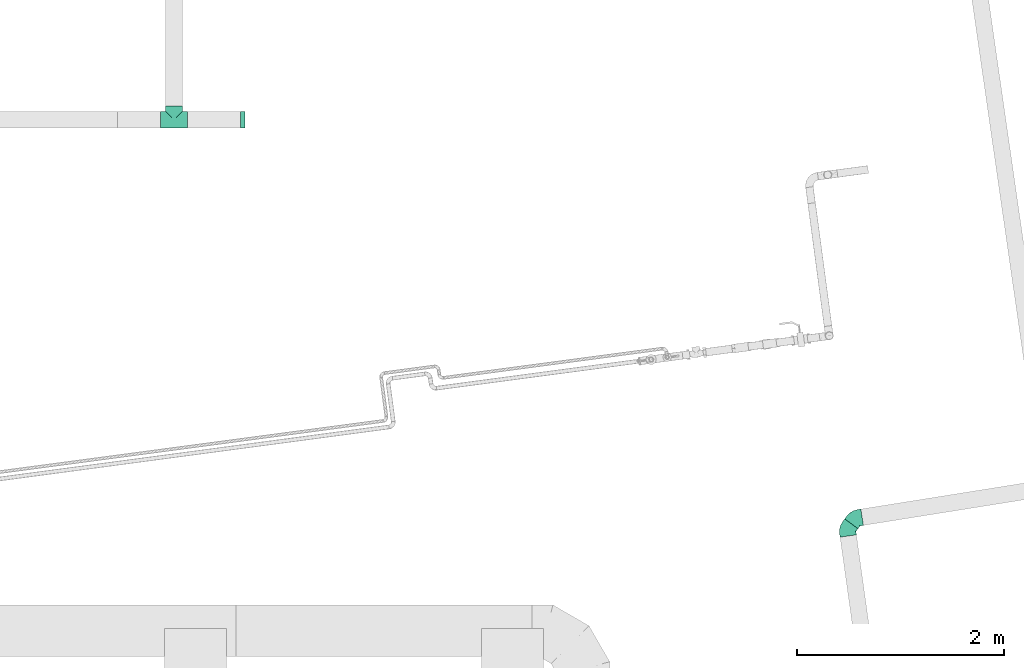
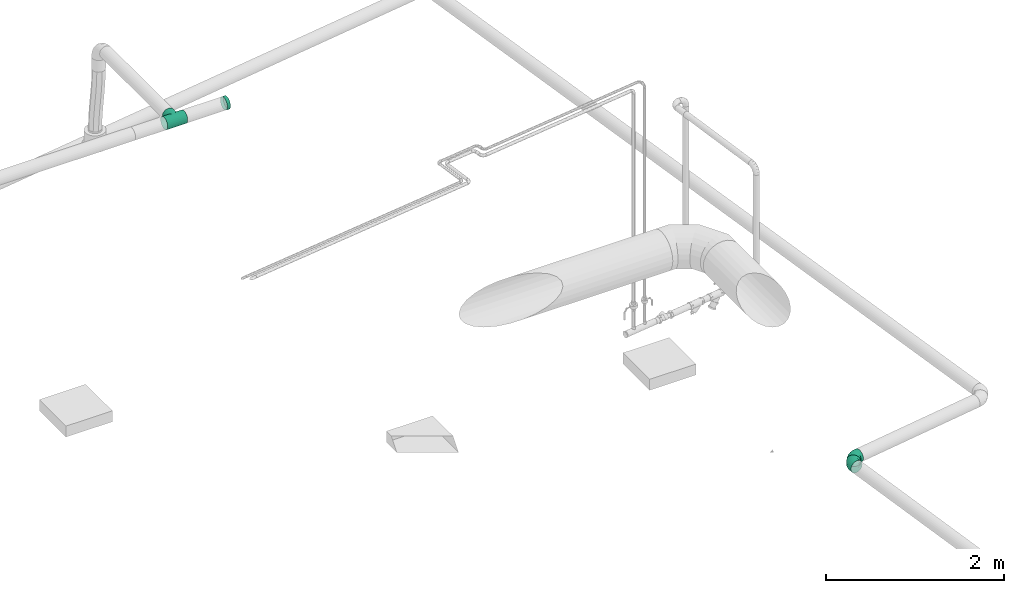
# One storey, part 187 of 374: 4 flow fittings.
"""IFC2X3 building model written with IfcOpenShell, lengths in metres."""

from ifc_helpers import new_model, si_unit, direction, origin, place, context, subcontext, project, spatial, open_shell, surface_model, source, transform, mapped, element, save


model = new_model("IFC2X3")

# Units and contexts
model_context = context("Model", 3, precision=1e-05, world=origin(), true_north=direction((-0.4480736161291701, 0.8939966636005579)))
body_context = subcontext(model_context, "Body", "Model", "MODEL_VIEW")
ifc_project = project(units=[si_unit("LENGTHUNIT", "METRE"), si_unit("AREAUNIT", "SQUARE_METRE"), si_unit("VOLUMEUNIT", "CUBIC_METRE"), si_unit("PLANEANGLEUNIT", "RADIAN"), si_unit("THERMODYNAMICTEMPERATUREUNIT", "KELVIN"), si_unit("MASSUNIT", "GRAM", prefix="KILO"), si_unit("TIMEUNIT", "SECOND")], contexts=[model_context])

# Site, building, storey
site_placement = place(None, origin())
site = spatial("IfcSite", under=ifc_project, at=site_placement, Name="Site 1", CompositionType="ELEMENT")
building_placement = place(site_placement, origin())
building = spatial("IfcBuilding", under=site, at=building_placement, Name="Undefined", CompositionType="ELEMENT")
storey_placement = place(building_placement, origin())
storey = spatial("IfcBuildingStorey", under=building, at=storey_placement, Name="Rez de chauss\x8ee", CompositionType="ELEMENT", Elevation=0.0)

# Flow fittings
shared_shape_1 = source(origin(), body_context, "Body", "SurfaceModel", [
    surface_model("IfcFaceBasedSurfaceModel", [(0.0, 0.020884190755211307, 0.0), (0.0, 0.0, 0.0), (0.2599999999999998, -7.105427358e-15, 0.0), (0.2599999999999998, 0.0208841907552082, -4.4408921e-16), (0.0, -0.020172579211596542, -0.005405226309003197), (0.2599999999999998, -0.020172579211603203, -0.005405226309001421), (0.0, -0.03825881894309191, -0.015847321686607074), (0.2599999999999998, -0.038258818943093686, -0.015847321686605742), (0.0, -0.05302617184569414, -0.0306146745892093), (0.2599999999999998, -0.053026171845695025, -0.030614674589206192), (0.0, -0.06346826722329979, -0.04870091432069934), (0.2599999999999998, -0.06346826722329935, -0.04870091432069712), (0.0, -0.06887349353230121, -0.06887349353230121), (0.2599999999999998, -0.06887349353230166, -0.06887349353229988), (0.0, -0.06887349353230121, -0.08975768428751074), (0.2599999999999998, -0.06887349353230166, -0.08975768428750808), (0.0, -0.06346826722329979, -0.10993026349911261), (0.2599999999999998, -0.06346826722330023, -0.10993026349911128), (0.0, -0.05302617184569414, -0.12801650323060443), (0.2599999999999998, -0.05302617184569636, -0.12801650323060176), (0.0, -0.038258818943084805, -0.14278385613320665), (0.2599999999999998, -0.03825881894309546, -0.1427838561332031), (0.0, -0.020172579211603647, -0.15322595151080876), (0.2599999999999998, -0.02017257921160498, -0.15322595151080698), (0.0, 7.105427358e-15, -0.15863117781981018), (0.2599999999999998, -1.776356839e-15, -0.15863117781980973), (0.0, 0.020884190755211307, -0.15863117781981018), (0.2599999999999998, 0.020884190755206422, -0.15863117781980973), (0.0, 0.04105676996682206, -0.15322595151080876), (0.2599999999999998, 0.04105676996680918, -0.1532259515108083), (0.0, 0.05914300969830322, -0.1427838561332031), (0.2599999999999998, 0.059143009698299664, -0.14278385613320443), (0.0, 0.07391036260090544, -0.12801650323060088), (0.2599999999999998, 0.073910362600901, -0.12801650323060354), (0.0, 0.0843524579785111, -0.10993026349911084), (0.2599999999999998, 0.08435245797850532, -0.10993026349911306), (0.0, 0.08975768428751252, -0.08975768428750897), (0.2599999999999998, 0.08975768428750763, -0.08975768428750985), (0.0, 0.08975768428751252, -0.06887349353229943), (0.2599999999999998, 0.08975768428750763, -0.0688734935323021), (0.0, 0.0843524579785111, -0.048700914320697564), (0.2599999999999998, 0.08435245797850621, -0.04870091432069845), (0.0, 0.07391036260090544, -0.030614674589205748), (0.2599999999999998, 0.07391036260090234, -0.030614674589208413), (0.0, 0.05914300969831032, -0.015847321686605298), (0.2599999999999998, 0.05914300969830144, -0.01584732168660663), (0.0, 0.04105676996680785, -0.005405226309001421), (0.2599999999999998, 0.0410567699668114, -0.005405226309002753), (0.20999999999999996, 0.08975768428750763, -0.08975768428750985), (0.20727406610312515, 0.08435245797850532, -0.10993026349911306), (0.20727406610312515, 0.13662731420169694, -0.11681237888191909), (0.20999999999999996, 0.13932992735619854, -0.09628399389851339), (0.19928203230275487, 0.073910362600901, -0.12801650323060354), (0.19928203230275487, 0.1341088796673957, -0.13594178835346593), (0.18656854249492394, 0.059143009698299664, -0.14278385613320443), (0.18656854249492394, 0.13194625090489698, -0.15236858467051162), (0.16999999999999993, 0.04105676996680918, -0.1532259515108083), (0.16999999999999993, 0.13028680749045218, -0.16497330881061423), (0.15070552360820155, 0.020884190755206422, -0.15863117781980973), (0.15070552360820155, 0.12924363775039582, -0.17289696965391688), (0.1299999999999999, -1.776356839e-15, -0.15863117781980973), (0.1299999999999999, 0.12888783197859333, -0.17559958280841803), (0.10929447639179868, 0.020884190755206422, -0.15863117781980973), (0.10929447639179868, 0.12924363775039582, -0.17289696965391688), (0.08999999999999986, 0.04105676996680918, -0.1532259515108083), (0.08999999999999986, 0.13028680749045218, -0.16497330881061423), (0.07343145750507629, 0.059143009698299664, -0.14278385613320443), (0.07343145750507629, 0.13194625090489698, -0.15236858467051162), (0.06071796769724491, 0.073910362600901, -0.12801650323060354), (0.06071796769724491, 0.1341088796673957, -0.13594178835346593), (0.05272593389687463, 0.08435245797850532, -0.10993026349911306), (0.05272593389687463, 0.13662731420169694, -0.11681237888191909), (0.05000000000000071, 0.08975768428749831, -0.08975768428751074), (0.04999999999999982, 0.13932992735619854, -0.09628399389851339), (0.05272593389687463, 0.08975768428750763, -0.0688734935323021), (0.05272593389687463, 0.14203254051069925, -0.07575560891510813), (0.06071796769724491, 0.08435245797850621, -0.04870091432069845), (0.06071796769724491, 0.14455097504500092, -0.05662619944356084), (0.07343145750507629, 0.07391036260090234, -0.030614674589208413), (0.07343145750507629, 0.14671360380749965, -0.0401994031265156), (0.08999999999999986, 0.05914300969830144, -0.01584732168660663), (0.08999999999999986, 0.14837304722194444, -0.027594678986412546), (0.10929447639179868, 0.0410567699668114, -0.005405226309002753), (0.10929447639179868, 0.1494162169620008, -0.019671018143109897), (0.1299999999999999, 0.0208841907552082, -4.4408921e-16), (0.1299999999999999, 0.1497720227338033, -0.016968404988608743), (0.15070552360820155, 0.0410567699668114, -0.005405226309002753), (0.15070552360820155, 0.1494162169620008, -0.019671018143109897), (0.16999999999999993, 0.05914300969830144, -0.01584732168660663), (0.16999999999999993, 0.14837304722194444, -0.027594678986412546), (0.18656854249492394, 0.07391036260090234, -0.030614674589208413), (0.18656854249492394, 0.14671360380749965, -0.0401994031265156), (0.19928203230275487, 0.08435245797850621, -0.04870091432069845), (0.19928203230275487, 0.14455097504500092, -0.05662619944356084), (0.20727406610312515, 0.08975768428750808, -0.06887349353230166), (0.20727406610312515, 0.1420325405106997, -0.07575560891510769)], [open_shell([[[0, 1, 2, 3]], [[1, 4, 5, 2]], [[4, 6, 7, 5]], [[6, 8, 9, 7]], [[8, 10, 11, 9]], [[10, 12, 13, 11]], [[12, 14, 15, 13]], [[14, 16, 17, 15]], [[16, 18, 19, 17]], [[18, 20, 21, 19]], [[20, 22, 23, 21]], [[22, 24, 25, 23]], [[24, 26, 27, 25]], [[26, 28, 29, 27]], [[28, 30, 31, 29]], [[30, 32, 33, 31]], [[32, 34, 35, 33]], [[34, 36, 37, 35]], [[36, 38, 39, 37]], [[38, 40, 41, 39]], [[40, 42, 43, 41]], [[42, 44, 45, 43]], [[44, 46, 47, 45]], [[46, 0, 3, 47]], [[48, 49, 50, 51]], [[49, 52, 53, 50]], [[52, 54, 55, 53]], [[54, 56, 57, 55]], [[56, 58, 59, 57]], [[58, 60, 61, 59]], [[60, 62, 63, 61]], [[62, 64, 65, 63]], [[64, 66, 67, 65]], [[66, 68, 69, 67]], [[68, 70, 71, 69]], [[70, 72, 73, 71]], [[72, 74, 75, 73]], [[74, 76, 77, 75]], [[76, 78, 79, 77]], [[78, 80, 81, 79]], [[80, 82, 83, 81]], [[82, 84, 85, 83]], [[84, 86, 87, 85]], [[86, 88, 89, 87]], [[88, 90, 91, 89]], [[90, 92, 93, 91]], [[92, 94, 95, 93]], [[94, 48, 51, 95]]])]),
])
flow_fitting_1_placement = place(storey_placement, origin())
element("IfcFlowFitting", 1, at=flow_fitting_1_placement, inside=storey, Name="Pièce en té 90°", ObjectType="Pièce en té 90°", context=body_context, shape_type="MappedRepresentation", body=[
    mapped(shared_shape_1, transform((61.456143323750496, 22.637169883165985, 3.7227259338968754), x_axis=(-1.0, 0.0, 0.0), y_axis=(0.0, 0.9914448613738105, -0.13052619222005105), z_axis=(9.56658874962e-13, -0.13052619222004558, -0.9914448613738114))),
])
shared_shape_2 = source(origin(), body_context, "Body", "SurfaceModel", [
    surface_model("IfcFaceBasedSurfaceModel", [(0.0, 0.0210147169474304, 0.0), (0.0, 0.0, 0.0), (0.040000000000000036, 3.552713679e-15, 0.0), (0.040000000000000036, 0.0210147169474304, 0.0), (0.0, -0.02029865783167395, -0.005439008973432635), (0.040000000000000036, -0.02029865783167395, -0.005439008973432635), (0.0, -0.03849793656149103, -0.015946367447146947), (0.040000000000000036, -0.03849793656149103, -0.015946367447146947), (0.0, -0.05335758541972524, -0.03080601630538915), (0.040000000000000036, -0.05335758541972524, -0.03080601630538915), (0.0, -0.06386494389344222, -0.04900529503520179), (0.040000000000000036, -0.06386494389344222, -0.04900529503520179), (0.0, -0.0693039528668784, -0.06930395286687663), (0.040000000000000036, -0.0693039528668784, -0.06930395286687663), (0.0, -0.06930395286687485, -0.09031866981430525), (0.040000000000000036, -0.06930395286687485, -0.09031866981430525), (0.0, -0.06386494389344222, -0.11061732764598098), (0.040000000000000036, -0.06386494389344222, -0.11061732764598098), (0.0, -0.053357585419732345, -0.12881660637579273), (0.040000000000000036, -0.053357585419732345, -0.12881660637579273), (0.0, -0.03849793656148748, -0.14367625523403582), (0.040000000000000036, -0.03849793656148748, -0.14367625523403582), (0.0, -0.02029865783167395, -0.15418361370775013), (0.040000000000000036, -0.02029865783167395, -0.15418361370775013), (0.0, 0.0, -0.15962262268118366), (0.040000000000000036, 0.0, -0.15962262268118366), (0.0, 0.0210147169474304, -0.15962262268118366), (0.040000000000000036, 0.0210147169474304, -0.15962262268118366), (0.0, 0.04131337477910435, -0.15418361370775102), (0.040000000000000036, 0.04131337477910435, -0.15418361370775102), (0.0, 0.05951265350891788, -0.1436762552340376), (0.040000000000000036, 0.05951265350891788, -0.1436762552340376), (0.0, 0.07437230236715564, -0.1288166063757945), (0.040000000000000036, 0.07437230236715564, -0.1288166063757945), (0.0, 0.08487966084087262, -0.11061732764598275), (0.040000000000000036, 0.08487966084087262, -0.11061732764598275), (0.0, 0.09031866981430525, -0.09031866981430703), (0.040000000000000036, 0.09031866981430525, -0.09031866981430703), (0.0, 0.09031866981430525, -0.0693039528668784), (0.040000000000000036, 0.09031866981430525, -0.0693039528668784), (0.0, 0.08487966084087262, -0.04900529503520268), (0.040000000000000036, 0.08487966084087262, -0.04900529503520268), (0.0, 0.0743723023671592, -0.030806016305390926), (0.040000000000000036, 0.0743723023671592, -0.030806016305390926), (0.0, 0.05951265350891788, -0.015946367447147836), (0.040000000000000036, 0.05951265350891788, -0.015946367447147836), (0.0, 0.0413133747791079, -0.005439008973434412), (0.040000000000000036, 0.0413133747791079, -0.005439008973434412), (0.040000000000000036, 0.010507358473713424, -0.07981131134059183)], [open_shell([[[0, 1, 2, 3]], [[1, 4, 5, 2]], [[4, 6, 7, 5]], [[6, 8, 9, 7]], [[8, 10, 11, 9]], [[10, 12, 13, 11]], [[12, 14, 15, 13]], [[14, 16, 17, 15]], [[16, 18, 19, 17]], [[18, 20, 21, 19]], [[20, 22, 23, 21]], [[22, 24, 25, 23]], [[24, 26, 27, 25]], [[26, 28, 29, 27]], [[28, 30, 31, 29]], [[30, 32, 33, 31]], [[32, 34, 35, 33]], [[34, 36, 37, 35]], [[36, 38, 39, 37]], [[38, 40, 41, 39]], [[40, 42, 43, 41]], [[42, 44, 45, 43]], [[44, 46, 47, 45]], [[46, 0, 3, 47]], [[48, 47, 3]], [[48, 45, 47]], [[48, 43, 45]], [[48, 41, 43]], [[48, 39, 41]], [[48, 37, 39]], [[48, 35, 37]], [[48, 33, 35]], [[48, 31, 33]], [[48, 29, 31]], [[48, 27, 29]], [[48, 25, 27]], [[48, 23, 25]], [[48, 21, 23]], [[48, 19, 21]], [[48, 17, 19]], [[48, 15, 17]], [[48, 13, 15]], [[48, 11, 13]], [[48, 9, 11]], [[48, 7, 9]], [[48, 5, 7]], [[48, 2, 5]], [[48, 3, 2]]])]),
])
flow_fitting_2_placement = place(storey_placement, origin())
element("IfcFlowFitting", 2, at=flow_fitting_2_placement, inside=storey, Name="Couvercle de nettoyage", ObjectType="Couvercle de nettoyage", context=body_context, shape_type="MappedRepresentation", body=[
    mapped(shared_shape_2, transform((61.970219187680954, 22.63704047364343, 3.87775702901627), x_axis=(1.0, 0.0, 0.0), y_axis=(0.0, 0.9914448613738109, 0.1305261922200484), z_axis=(0.0, -0.1305261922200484, 0.9914448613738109))),
])
shared_shape_3 = source(origin(), body_context, "Body", "SurfaceModel", [
    surface_model("IfcFaceBasedSurfaceModel", [(0.0, 0.020884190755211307, 0.0), (0.0, 0.0, 0.0), (0.03319999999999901, -1.4210854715e-14, -3.552713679e-15), (0.03320000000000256, 0.020884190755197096, -1.776356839e-15), (0.0, -0.020172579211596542, -0.005405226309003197), (0.033199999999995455, -0.020172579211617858, -0.00540522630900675), (0.0, -0.03825881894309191, -0.015847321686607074), (0.0331999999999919, -0.03825881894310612, -0.015847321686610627), (0.0, -0.05302617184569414, -0.0306146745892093), (0.033199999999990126, -0.05302617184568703, -0.030614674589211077), (0.0, -0.06346826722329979, -0.04870091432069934), (0.03319999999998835, -0.063468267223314, -0.048700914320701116), (0.0, -0.06887349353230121, -0.06887349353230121), (0.033199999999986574, -0.06887349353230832, -0.06887349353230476), (0.0, -0.06887349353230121, -0.08975768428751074), (0.03319999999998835, -0.06887349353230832, -0.08975768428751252), (0.0, -0.06346826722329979, -0.10993026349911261), (0.033199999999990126, -0.06346826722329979, -0.10993026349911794), (0.0, -0.05302617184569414, -0.12801650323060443), (0.0331999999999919, -0.05302617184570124, -0.12801650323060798), (0.0, -0.038258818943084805, -0.14278385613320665), (0.033199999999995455, -0.03825881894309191, -0.14278385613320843), (0.0, -0.020172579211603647, -0.15322595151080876), (0.03319999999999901, -0.020172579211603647, -0.1532259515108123), (0.0, 7.105427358e-15, -0.15863117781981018), (0.03320000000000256, 0.0, -0.15863117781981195), (0.0, 0.020884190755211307, -0.15863117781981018), (0.033200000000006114, 0.020884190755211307, -0.15863117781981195), (0.0, 0.04105676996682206, -0.15322595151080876), (0.03320000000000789, 0.041056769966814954, -0.15322595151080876), (0.0, 0.05914300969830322, -0.1427838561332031), (0.03320000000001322, 0.05914300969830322, -0.14278385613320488), (0.0, 0.07391036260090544, -0.12801650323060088), (0.033200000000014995, 0.07391036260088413, -0.12801650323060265), (0.0, 0.0843524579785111, -0.10993026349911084), (0.033200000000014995, 0.08435245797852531, -0.10993026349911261), (0.0, 0.08975768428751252, -0.08975768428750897), (0.03320000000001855, 0.08975768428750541, -0.08975768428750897), (0.0, 0.08975768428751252, -0.06887349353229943), (0.033200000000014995, 0.08975768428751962, -0.06887349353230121), (0.0, 0.0843524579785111, -0.048700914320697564), (0.033200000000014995, 0.08435245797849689, -0.04870091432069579), (0.0, 0.07391036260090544, -0.030614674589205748), (0.03320000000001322, 0.07391036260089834, -0.030614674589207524), (0.0, 0.05914300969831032, -0.015847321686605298), (0.03320000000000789, 0.059143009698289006, -0.015847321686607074), (0.0, 0.04105676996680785, -0.005405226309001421), (0.033200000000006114, 0.041056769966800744, -0.005405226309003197), (0.07342032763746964, -0.06368842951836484, -0.09044031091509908), (0.07411744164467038, -0.06359856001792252, -0.06956795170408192), (0.11096577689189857, -0.048478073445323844, -0.09244279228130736), (0.11231364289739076, -0.04812457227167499, -0.0716051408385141), (0.14333936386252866, -0.024253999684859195, -0.09563195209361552), (0.14524834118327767, -0.023480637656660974, -0.07484957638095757), (0.07137649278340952, -0.05854668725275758, -0.11057820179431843), (0.10701403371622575, -0.04410926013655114, -0.11247892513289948), (0.13774252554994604, -0.021116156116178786, -0.11550602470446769), (0.06812522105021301, -0.04852373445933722, -0.12860926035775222), (0.10072771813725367, -0.03531585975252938, -0.13034811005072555), (0.1288392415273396, -0.01428094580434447, -0.1331174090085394), (0.06388808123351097, -0.034302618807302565, -0.14330469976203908), (0.0925352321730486, -0.022697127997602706, -0.14483259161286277), (0.117236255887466, -0.004214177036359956, -0.14726591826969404), (0.058953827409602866, -0.016852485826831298, -0.15366305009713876), (0.08299488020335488, -0.0071130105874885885, -0.15494527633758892), (0.10372429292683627, 0.008398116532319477, -0.15698735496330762), (0.053658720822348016, 0.002637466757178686, -0.15897840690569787), (0.07275682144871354, 0.010374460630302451, -0.15999700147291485), (0.08922417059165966, 0.022696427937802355, -0.1616192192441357), (0.048363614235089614, 0.02283903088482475, -0.1588885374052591), (0.06251876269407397, 0.028573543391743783, -0.15964350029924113), (0.07472404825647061, 0.037706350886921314, -0.1608458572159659), (0.04342936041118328, 0.0423755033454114, -0.1533995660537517), (0.0529784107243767, 0.046244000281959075, -0.15390886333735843), (0.06121208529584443, 0.05240498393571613, -0.15471997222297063), (0.03919222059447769, 0.05991550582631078, -0.14288555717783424), (0.044785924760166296, 0.062181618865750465, -0.14318389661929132), (0.04960909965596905, 0.06579063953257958, -0.1436590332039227), (0.03594094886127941, 0.0742637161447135, -0.12806302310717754), (0.03849960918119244, 0.07530027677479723, -0.12819948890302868), (0.04070581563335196, 0.07695110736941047, -0.12841682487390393), (0.03389711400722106, 0.0844423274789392, -0.10994209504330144), (0.034547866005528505, 0.08470595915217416, -0.10997680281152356), (0.03510897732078, 0.08512582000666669, -0.11003207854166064), (0.03389711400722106, 0.08984755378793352, -0.06888532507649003), (0.034547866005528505, 0.09011118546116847, -0.06892003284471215), (0.03510897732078, 0.090531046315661, -0.06897530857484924), (0.03594094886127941, 0.08470581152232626, -0.04874743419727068), (0.03849960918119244, 0.08574237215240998, -0.048883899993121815), (0.04070581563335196, 0.08739320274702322, -0.04910123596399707), (0.03919222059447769, 0.0746828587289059, -0.03071637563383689), (0.044785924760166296, 0.07694897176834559, -0.031014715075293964), (0.04960909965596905, 0.0805579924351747, -0.03148985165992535), (0.04342936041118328, 0.060461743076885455, -0.01602093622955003), (0.0529784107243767, 0.06433024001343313, -0.016530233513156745), (0.06121208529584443, 0.07049122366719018, -0.017341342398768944), (0.048363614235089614, 0.04301161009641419, -0.005662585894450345), (0.06251876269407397, 0.04874612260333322, -0.00641754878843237), (0.07472404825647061, 0.05787893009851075, -0.007619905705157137), (0.053658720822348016, 0.023521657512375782, -0.0003472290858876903), (0.07275682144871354, 0.03125865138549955, -0.0013658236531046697), (0.08922417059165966, 0.04358061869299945, -0.002988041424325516), (0.058953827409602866, 0.003320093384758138, -0.0004370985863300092), (0.08299488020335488, 0.013059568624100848, -0.0017193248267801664), (0.10372429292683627, 0.028570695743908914, -0.003761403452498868), (0.06388808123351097, -0.016216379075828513, -0.005926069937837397), (0.0925352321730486, -0.004610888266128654, -0.00745396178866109), (0.117236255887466, 0.013872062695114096, -0.00988728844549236), (0.06812522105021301, -0.0337563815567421, -0.016440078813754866), (0.10072771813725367, -0.020548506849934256, -0.018178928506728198), (0.1288392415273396, 0.00048640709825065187, -0.020948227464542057), (0.07137649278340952, -0.04810459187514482, -0.03126261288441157), (0.10701403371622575, -0.033667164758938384, -0.03316333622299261), (0.13774252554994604, -0.010674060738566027, -0.03619043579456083), (0.07342032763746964, -0.05828320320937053, -0.049383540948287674), (0.11096577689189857, -0.04307284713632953, -0.05138602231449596), (0.14333936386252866, -0.01884877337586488, -0.05457518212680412), (0.16703906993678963, -0.0012028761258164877, -0.0986666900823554), (0.16894804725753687, -0.0004295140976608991, -0.0778843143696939), (0.1614422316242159, 0.0019349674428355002, -0.11854076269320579), (0.15253894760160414, 0.008770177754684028, -0.1361521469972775), (0.14093596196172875, 0.01883694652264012, -0.15030065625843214), (0.12742399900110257, 0.03144924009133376, -0.16002209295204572), (0.1129238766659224, 0.04574755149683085, -0.16465395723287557), (0.09842375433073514, 0.06075747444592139, -0.16388059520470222), (0.08491179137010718, 0.07545610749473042, -0.15775471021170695), (0.0733088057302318, 0.08884176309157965, -0.14669377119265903), (0.06440552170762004, 0.10000223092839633, -0.13145156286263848), (0.0588086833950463, 0.10817694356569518, -0.11306681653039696), (0.05689970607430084, 0.11280880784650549, -0.09279242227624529), (0.0588086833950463, 0.1135821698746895, -0.07201004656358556), (0.06440552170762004, 0.11044432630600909, -0.05213597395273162), (0.0733088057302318, 0.10360911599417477, -0.034524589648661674), (0.08491179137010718, 0.09354234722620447, -0.02037608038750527), (0.09842375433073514, 0.08093005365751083, -0.010654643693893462), (0.1129238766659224, 0.06663174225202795, -0.006022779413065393), (0.12742399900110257, 0.0516218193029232, -0.006796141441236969), (0.14093596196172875, 0.03692318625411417, -0.01292202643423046), (0.15253894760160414, 0.02353753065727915, -0.02398296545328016), (0.1614422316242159, 0.012377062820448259, -0.03922517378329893), (0.16703906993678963, 0.004202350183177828, -0.057609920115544)], [open_shell([[[0, 1, 2, 3]], [[1, 4, 5, 2]], [[4, 6, 7, 5]], [[6, 8, 9, 7]], [[8, 10, 11, 9]], [[10, 12, 13, 11]], [[12, 14, 15, 13]], [[14, 16, 17, 15]], [[16, 18, 19, 17]], [[18, 20, 21, 19]], [[20, 22, 23, 21]], [[22, 24, 25, 23]], [[24, 26, 27, 25]], [[26, 28, 29, 27]], [[28, 30, 31, 29]], [[30, 32, 33, 31]], [[32, 34, 35, 33]], [[34, 36, 37, 35]], [[36, 38, 39, 37]], [[38, 40, 41, 39]], [[40, 42, 43, 41]], [[42, 44, 45, 43]], [[44, 46, 47, 45]], [[46, 0, 3, 47]], [[13, 15, 48, 49]], [[49, 48, 50, 51]], [[51, 50, 52, 53]], [[15, 17, 54, 48]], [[48, 54, 55, 50]], [[50, 55, 56, 52]], [[17, 19, 57, 54]], [[54, 57, 58, 55]], [[55, 58, 59, 56]], [[19, 21, 60, 57]], [[57, 60, 61, 58]], [[58, 61, 62, 59]], [[21, 23, 63, 60]], [[60, 63, 64, 61]], [[61, 64, 65, 62]], [[23, 25, 66, 63]], [[63, 66, 67, 64]], [[64, 67, 68, 65]], [[25, 27, 69, 66]], [[66, 69, 70, 67]], [[67, 70, 71, 68]], [[27, 29, 72, 69]], [[69, 72, 73, 70]], [[70, 73, 74, 71]], [[29, 31, 75, 72]], [[72, 75, 76, 73]], [[73, 76, 77, 74]], [[31, 33, 78, 75]], [[75, 78, 79, 76]], [[76, 79, 80, 77]], [[33, 35, 81, 78]], [[78, 81, 82, 79]], [[79, 82, 83, 80]], [[35, 37, 81]], [[81, 37, 82]], [[82, 37, 83]], [[37, 39, 84]], [[37, 84, 85]], [[37, 85, 86]], [[39, 41, 87, 84]], [[84, 87, 88, 85]], [[85, 88, 89, 86]], [[41, 43, 90, 87]], [[87, 90, 91, 88]], [[88, 91, 92, 89]], [[43, 45, 93, 90]], [[90, 93, 94, 91]], [[91, 94, 95, 92]], [[45, 47, 96, 93]], [[93, 96, 97, 94]], [[94, 97, 98, 95]], [[47, 3, 99, 96]], [[96, 99, 100, 97]], [[97, 100, 101, 98]], [[3, 2, 102, 99]], [[99, 102, 103, 100]], [[100, 103, 104, 101]], [[2, 5, 105, 102]], [[102, 105, 106, 103]], [[103, 106, 107, 104]], [[5, 7, 108, 105]], [[105, 108, 109, 106]], [[106, 109, 110, 107]], [[7, 9, 111, 108]], [[108, 111, 112, 109]], [[109, 112, 113, 110]], [[9, 11, 114, 111]], [[111, 114, 115, 112]], [[112, 115, 116, 113]], [[11, 13, 49, 114]], [[114, 49, 51, 115]], [[115, 51, 53, 116]], [[53, 52, 117, 118]], [[52, 56, 119, 117]], [[56, 59, 120, 119]], [[59, 62, 121, 120]], [[62, 65, 122, 121]], [[65, 68, 123, 122]], [[68, 71, 124, 123]], [[71, 74, 125, 124]], [[74, 77, 126, 125]], [[77, 80, 127, 126]], [[80, 83, 128, 127]], [[83, 37, 129, 128]], [[37, 86, 130, 129]], [[86, 89, 131, 130]], [[89, 92, 132, 131]], [[92, 95, 133, 132]], [[95, 98, 134, 133]], [[98, 101, 135, 134]], [[101, 104, 136, 135]], [[104, 107, 137, 136]], [[107, 110, 138, 137]], [[110, 113, 139, 138]], [[113, 116, 140, 139]], [[116, 53, 118, 140]]])]),
])
flow_fitting_3_placement = place(storey_placement, origin())
element("IfcFlowFitting", 3, at=flow_fitting_3_placement, inside=storey, Name="PE-HD coude 45°", ObjectType="PE-HD coude 45°", context=body_context, shape_type="MappedRepresentation", body=[
    mapped(shared_shape_3, transform((67.82570081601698, 18.628392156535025, -0.8708619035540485), x_axis=(-0.1384884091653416, 0.990364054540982, 0.0), y_axis=(0.981891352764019, 0.13730362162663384, -0.1305261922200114), z_axis=(-0.12926844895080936, -0.01807636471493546, -0.9914448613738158))),
])
flow_fitting_4_placement = place(storey_placement, origin())
element("IfcFlowFitting", 4, at=flow_fitting_4_placement, inside=storey, Name="PE-HD coude 45°", ObjectType="PE-HD coude 45°", context=body_context, shape_type="MappedRepresentation", body=[
    mapped(shared_shape_3, transform((67.85962456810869, 18.761818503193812, -0.8708619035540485), x_axis=(0.5946945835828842, 0.8039517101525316, 0.0), y_axis=(0.7970737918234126, -0.5896068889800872, -0.13052619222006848), z_axis=(-0.1049367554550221, 0.07762321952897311, -0.9914448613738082))),
])

save(model, "model.ifc")
